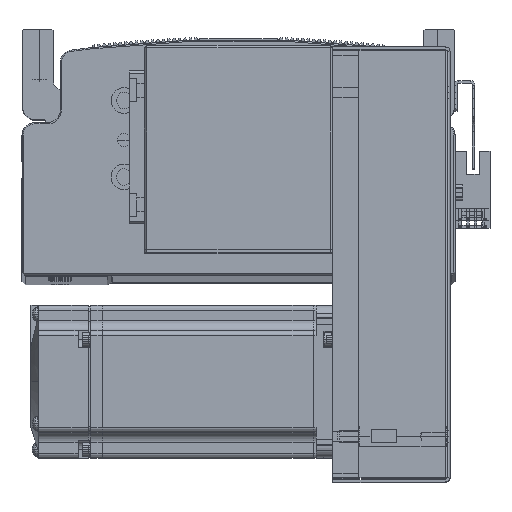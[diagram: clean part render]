
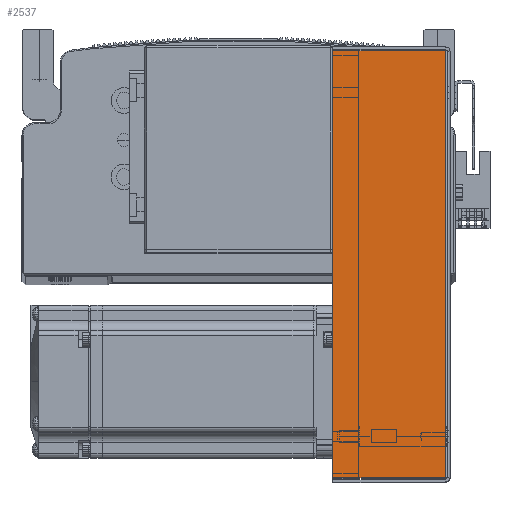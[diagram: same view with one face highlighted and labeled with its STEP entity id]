
A CAD part, top view. The second image highlights one B-rep face of the part: STEP entity #2537.
In plain terms, the highlighted planar face has unit normal (0, 0, 1) as drawn and (0, 0, -1) by its records, which use the part's own axes.
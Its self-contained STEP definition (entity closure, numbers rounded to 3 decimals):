
#2537 = ADVANCED_FACE ( 'NONE', ( #31893 ), #5981, .F. ) ;
#5968 = DIRECTION ( 'NONE',  ( 0., 0., 1. ) ) ;
#5981 = PLANE ( 'NONE',  #16317 ) ;
#5983 = CARTESIAN_POINT ( 'NONE',  ( 0., 0., -40.5 ) ) ;
#6000 = DIRECTION ( 'NONE',  ( 0., -1., 0. ) ) ;
#6536 = LINE ( 'NONE', #36021, #6563 ) ;
#6563 = VECTOR ( 'NONE', #36013, 1000. ) ;
#6570 = LINE ( 'NONE', #36100, #6573 ) ;
#6573 = VECTOR ( 'NONE', #36116, 1000. ) ;
#6578 = VECTOR ( 'NONE', #36085, 1000. ) ;
#6589 = LINE ( 'NONE', #36093, #6578 ) ;
#7660 = VECTOR ( 'NONE', #37535, 1000. ) ;
#7706 = LINE ( 'NONE', #37529, #7660 ) ;
#10006 = ORIENTED_EDGE ( 'NONE', *, *, #62085, .F. ) ;
#10045 = ORIENTED_EDGE ( 'NONE', *, *, #62325, .T. ) ;
#10047 = ORIENTED_EDGE ( 'NONE', *, *, #62238, .T. ) ;
#10079 = ORIENTED_EDGE ( 'NONE', *, *, #62306, .F. ) ;
#16317 = AXIS2_PLACEMENT_3D ( 'NONE', #5983, #5968, #6000 ) ;
#31893 = FACE_OUTER_BOUND ( 'NONE', #37647, .T. ) ;
#36013 = DIRECTION ( 'NONE',  ( 0., 1., 0. ) ) ;
#36021 = CARTESIAN_POINT ( 'NONE',  ( -83.793, 0., -40.5 ) ) ;
#36085 = DIRECTION ( 'NONE',  ( 0., 1., 0. ) ) ;
#36093 = CARTESIAN_POINT ( 'NONE',  ( 83.793, 0., -40.5 ) ) ;
#36100 = CARTESIAN_POINT ( 'NONE',  ( 84.5, 45., -40.5 ) ) ;
#36116 = DIRECTION ( 'NONE',  ( 1., 0., 0. ) ) ;
#37529 = CARTESIAN_POINT ( 'NONE',  ( 0., 0.737, -40.5 ) ) ;
#37535 = DIRECTION ( 'NONE',  ( 1., 0., 0. ) ) ;
#37647 = EDGE_LOOP ( 'NONE', ( #10006, #10047, #10045, #10079 ) ) ;
#48076 = CARTESIAN_POINT ( 'NONE',  ( 83.793, 0.737, -40.5 ) ) ;
#48126 = CARTESIAN_POINT ( 'NONE',  ( -83.793, 0.737, -40.5 ) ) ;
#48189 = CARTESIAN_POINT ( 'NONE',  ( -83.793, 45., -40.5 ) ) ;
#48254 = CARTESIAN_POINT ( 'NONE',  ( 83.793, 45., -40.5 ) ) ;
#57307 = VERTEX_POINT ( 'NONE', #48076 ) ;
#57322 = VERTEX_POINT ( 'NONE', #48126 ) ;
#57330 = VERTEX_POINT ( 'NONE', #48189 ) ;
#57362 = VERTEX_POINT ( 'NONE', #48254 ) ;
#62085 = EDGE_CURVE ( 'NONE', #57322, #57307, #7706, .T. ) ;
#62238 = EDGE_CURVE ( 'NONE', #57322, #57330, #6536, .T. ) ;
#62306 = EDGE_CURVE ( 'NONE', #57307, #57362, #6589, .T. ) ;
#62325 = EDGE_CURVE ( 'NONE', #57330, #57362, #6570, .T. ) ;
